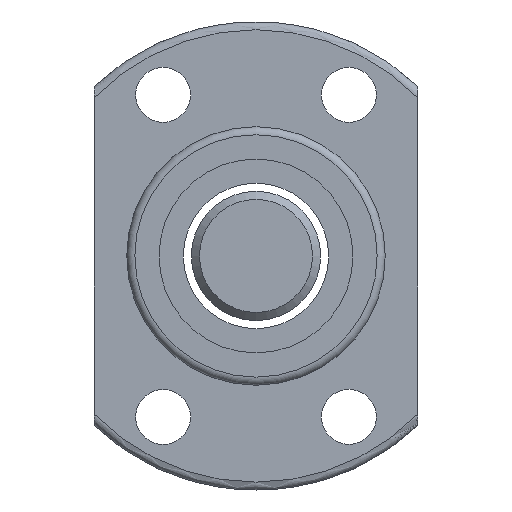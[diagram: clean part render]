
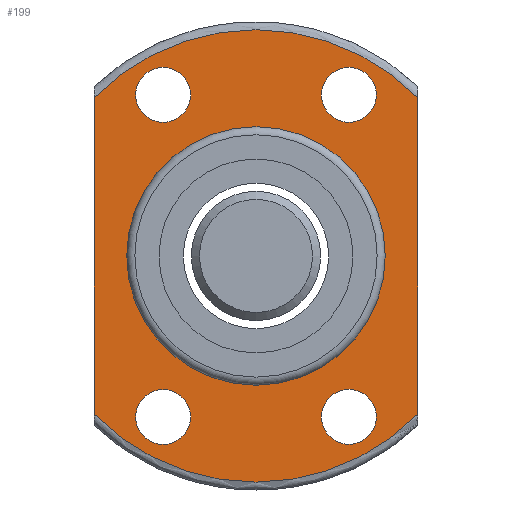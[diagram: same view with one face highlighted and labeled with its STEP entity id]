
A CAD part, left-side view. The second image highlights one B-rep face of the part: STEP entity #199.
In plain terms, the highlighted planar face has unit normal (-1, 0, 0).
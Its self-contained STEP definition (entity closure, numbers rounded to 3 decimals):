
#105=PLANE('',#588);
#118=FACE_BOUND('',#260,.T.);
#119=FACE_BOUND('',#261,.T.);
#120=FACE_BOUND('',#262,.T.);
#121=FACE_BOUND('',#263,.T.);
#122=FACE_BOUND('',#264,.T.);
#182=LINE('',#920,#190);
#183=LINE('',#921,#191);
#190=VECTOR('',#677,1.);
#191=VECTOR('',#678,1.);
#199=ADVANCED_FACE('',(#118,#119,#120,#121,#122,#239),#105,.F.);
#239=FACE_OUTER_BOUND('',#265,.T.);
#260=EDGE_LOOP('',(#374));
#261=EDGE_LOOP('',(#375));
#262=EDGE_LOOP('',(#376));
#263=EDGE_LOOP('',(#377));
#264=EDGE_LOOP('',(#378));
#265=EDGE_LOOP('',(#379,#380,#381,#382));
#326=CIRCLE('',#576,14.);
#329=CIRCLE('',#582,8.);
#330=CIRCLE('',#583,1.7);
#331=CIRCLE('',#584,1.7);
#332=CIRCLE('',#585,1.7);
#333=CIRCLE('',#586,1.7);
#334=CIRCLE('',#587,14.);
#374=ORIENTED_EDGE('',*,*,#523,.T.);
#375=ORIENTED_EDGE('',*,*,#524,.T.);
#376=ORIENTED_EDGE('',*,*,#525,.T.);
#377=ORIENTED_EDGE('',*,*,#526,.T.);
#378=ORIENTED_EDGE('',*,*,#527,.T.);
#379=ORIENTED_EDGE('',*,*,#528,.F.);
#380=ORIENTED_EDGE('',*,*,#529,.T.);
#381=ORIENTED_EDGE('',*,*,#516,.F.);
#382=ORIENTED_EDGE('',*,*,#530,.F.);
#469=VERTEX_POINT('',#825);
#471=VERTEX_POINT('',#850);
#476=VERTEX_POINT('',#908);
#477=VERTEX_POINT('',#910);
#478=VERTEX_POINT('',#912);
#479=VERTEX_POINT('',#914);
#480=VERTEX_POINT('',#916);
#481=VERTEX_POINT('',#918);
#482=VERTEX_POINT('',#919);
#516=EDGE_CURVE('',#471,#469,#326,.T.);
#523=EDGE_CURVE('',#476,#476,#329,.T.);
#524=EDGE_CURVE('',#477,#477,#330,.T.);
#525=EDGE_CURVE('',#478,#478,#331,.T.);
#526=EDGE_CURVE('',#479,#479,#332,.T.);
#527=EDGE_CURVE('',#480,#480,#333,.T.);
#528=EDGE_CURVE('',#481,#482,#334,.T.);
#529=EDGE_CURVE('',#481,#469,#182,.T.);
#530=EDGE_CURVE('',#482,#471,#183,.T.);
#576=AXIS2_PLACEMENT_3D('',#851,#651,#652);
#582=AXIS2_PLACEMENT_3D('',#907,#665,#666);
#583=AXIS2_PLACEMENT_3D('',#909,#667,#668);
#584=AXIS2_PLACEMENT_3D('',#911,#669,#670);
#585=AXIS2_PLACEMENT_3D('',#913,#671,#672);
#586=AXIS2_PLACEMENT_3D('',#915,#673,#674);
#587=AXIS2_PLACEMENT_3D('',#917,#675,#676);
#588=AXIS2_PLACEMENT_3D('',#922,#679,#680);
#651=DIRECTION('',(1.,0.,0.));
#652=DIRECTION('',(0.,1.,0.));
#665=DIRECTION('',(1.,0.,0.));
#666=DIRECTION('',(0.,1.,0.));
#667=DIRECTION('',(1.,0.,0.));
#668=DIRECTION('',(0.,1.,0.));
#669=DIRECTION('',(1.,0.,0.));
#670=DIRECTION('',(0.,1.,0.));
#671=DIRECTION('',(1.,0.,0.));
#672=DIRECTION('',(0.,1.,0.));
#673=DIRECTION('',(1.,0.,0.));
#674=DIRECTION('',(0.,1.,0.));
#675=DIRECTION('',(1.,0.,0.));
#676=DIRECTION('',(0.,1.,0.));
#677=DIRECTION('',(0.,0.,-1.));
#678=DIRECTION('',(0.,0.,-1.));
#679=DIRECTION('',(1.,0.,0.));
#680=DIRECTION('',(0.,1.,0.));
#825=CARTESIAN_POINT('',(-12.,10.,-9.798));
#850=CARTESIAN_POINT('',(-12.,-10.,-9.798));
#851=CARTESIAN_POINT('',(-12.,0.,0.));
#907=CARTESIAN_POINT('',(-12.,0.,0.));
#908=CARTESIAN_POINT('',(-12.,8.,0.));
#909=CARTESIAN_POINT('',(-12.,5.75,9.969));
#910=CARTESIAN_POINT('',(-12.,7.45,9.969));
#911=CARTESIAN_POINT('',(-12.,-5.75,9.969));
#912=CARTESIAN_POINT('',(-12.,-4.05,9.969));
#913=CARTESIAN_POINT('',(-12.,-5.75,-9.96));
#914=CARTESIAN_POINT('',(-12.,-4.05,-9.96));
#915=CARTESIAN_POINT('',(-12.,5.75,-9.969));
#916=CARTESIAN_POINT('',(-12.,7.45,-9.969));
#917=CARTESIAN_POINT('',(-12.,0.,0.));
#918=CARTESIAN_POINT('',(-12.,10.,9.798));
#919=CARTESIAN_POINT('',(-12.,-10.,9.798));
#920=CARTESIAN_POINT('',(-12.,10.,0.));
#921=CARTESIAN_POINT('',(-12.,-10.,0.));
#922=CARTESIAN_POINT('',(-12.,11.,0.));
